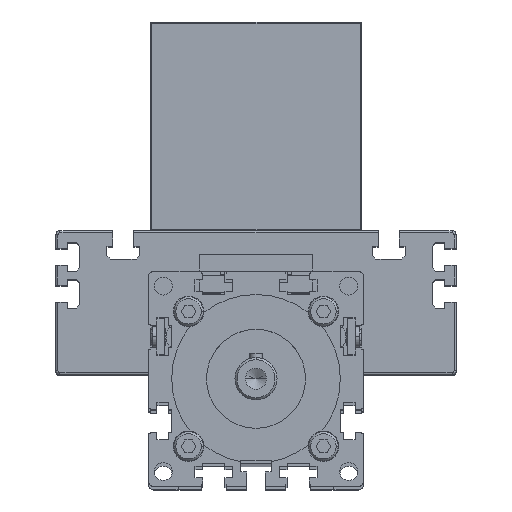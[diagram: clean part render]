
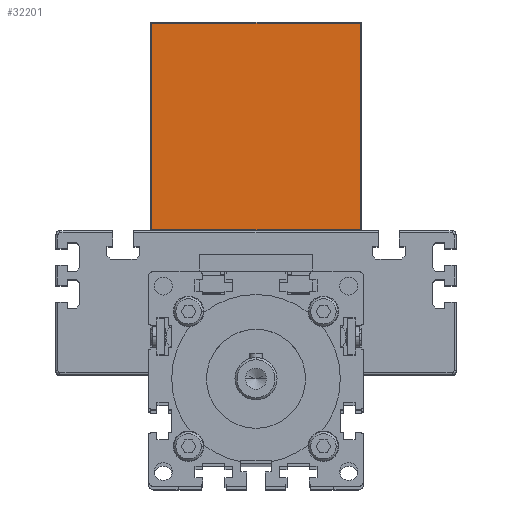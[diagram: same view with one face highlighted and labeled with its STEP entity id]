
A CAD part, top view. The second image highlights one B-rep face of the part: STEP entity #32201.
In plain terms, the highlighted planar face has unit normal (0, 0, 1).
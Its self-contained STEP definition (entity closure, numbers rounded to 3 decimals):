
#2519 = CARTESIAN_POINT ( 'NONE',  ( -49.5, 98.5, 90. ) ) ;
#3874 = CARTESIAN_POINT ( 'NONE',  ( 49.5, 99., 90. ) ) ;
#4214 = VECTOR ( 'NONE', #16814, 1000. ) ;
#4772 = LINE ( 'NONE', #5119, #11675 ) ;
#5119 = CARTESIAN_POINT ( 'NONE',  ( -49.5, 0., 90. ) ) ;
#5446 = EDGE_CURVE ( 'NONE', #26732, #19958, #4772, .T. ) ;
#7925 = DIRECTION ( 'NONE',  ( 0., 1., 0. ) ) ;
#10312 = ORIENTED_EDGE ( 'NONE', *, *, #25788, .T. ) ;
#11675 = VECTOR ( 'NONE', #18533, 1000. ) ;
#12810 = AXIS2_PLACEMENT_3D ( 'NONE', #32310, #33027, #7925 ) ;
#13453 = VECTOR ( 'NONE', #33081, 1000. ) ;
#15383 = EDGE_CURVE ( 'NONE', #19958, #33001, #35896, .T. ) ;
#15778 = ORIENTED_EDGE ( 'NONE', *, *, #27080, .T. ) ;
#16814 = DIRECTION ( 'NONE',  ( 1., 0., 0. ) ) ;
#18533 = DIRECTION ( 'NONE',  ( 0., -1., 0. ) ) ;
#18939 = FACE_OUTER_BOUND ( 'NONE', #27499, .T. ) ;
#19347 = ORIENTED_EDGE ( 'NONE', *, *, #5446, .T. ) ;
#19958 = VERTEX_POINT ( 'NONE', #33850 ) ;
#20755 = DIRECTION ( 'NONE',  ( 0., 1., 0. ) ) ;
#20953 = ORIENTED_EDGE ( 'NONE', *, *, #15383, .T. ) ;
#22372 = VECTOR ( 'NONE', #20755, 1000. ) ;
#23590 = CARTESIAN_POINT ( 'NONE',  ( 49.5, 98.5, 90. ) ) ;
#24312 = CARTESIAN_POINT ( 'NONE',  ( 50., 98.5, 90. ) ) ;
#25788 = EDGE_CURVE ( 'NONE', #33181, #26732, #29993, .T. ) ;
#26732 = VERTEX_POINT ( 'NONE', #2519 ) ;
#27080 = EDGE_CURVE ( 'NONE', #33001, #33181, #28977, .T. ) ;
#27499 = EDGE_LOOP ( 'NONE', ( #15778, #10312, #19347, #20953 ) ) ;
#28170 = CARTESIAN_POINT ( 'NONE',  ( 49.5, 0.5, 90. ) ) ;
#28977 = LINE ( 'NONE', #3874, #22372 ) ;
#29993 = LINE ( 'NONE', #24312, #13453 ) ;
#30188 = CARTESIAN_POINT ( 'NONE',  ( 50., 0.5, 90. ) ) ;
#32201 = ADVANCED_FACE ( 'NONE', ( #18939 ), #35438, .F. ) ;
#32310 = CARTESIAN_POINT ( 'NONE',  ( 50., 0., 90. ) ) ;
#33001 = VERTEX_POINT ( 'NONE', #28170 ) ;
#33027 = DIRECTION ( 'NONE',  ( 0., 0., -1. ) ) ;
#33081 = DIRECTION ( 'NONE',  ( -1., 0., 0. ) ) ;
#33181 = VERTEX_POINT ( 'NONE', #23590 ) ;
#33850 = CARTESIAN_POINT ( 'NONE',  ( -49.5, 0.5, 90. ) ) ;
#35438 = PLANE ( 'NONE',  #12810 ) ;
#35896 = LINE ( 'NONE', #30188, #4214 ) ;
